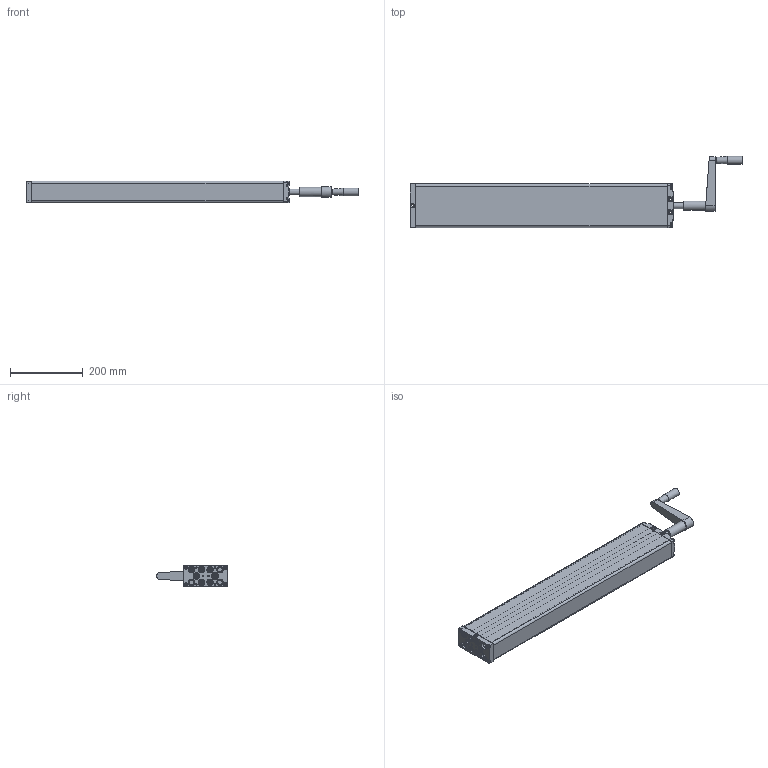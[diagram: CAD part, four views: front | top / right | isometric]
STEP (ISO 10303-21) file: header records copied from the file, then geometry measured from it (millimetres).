
FILE_DESCRIPTION(/* description */ ('Unknown'),/* implementation_level */ '2;1');
FILE_NAME(/* name */ '312.20265 Pumpe PB 7850 W mit Handkurbel',/* time_stamp */ '2016-11-25T10:59:14+01:00',/* author */ ('Unknown'),/* organization */ ('Unknown'),/* preprocessor_version */ 'ST-DEVELOPER v16.7',/* originating_system */ 'DEX',/* authorisation */ $);
FILE_SCHEMA (('AUTOMOTIVE_DESIGN {1 0 10303 214 3 1 1}'));
Products named in the file (23): 102.20265; 115.10035; 125.00061; 115.00008; 142.00021; 125.00021; 113.00005; 128.00001; 125.00052; 126.00013; 125.00053; 127.00014; Handgriff; 142.00013; 125.00145; 115.00140; 126.00006; 122.00040; 119.00045; 126.00036; 142.00057; 142.00083; 142.00017
Assembly tree (39 placements, depth 3):
  102.20265
    115.10035  x7
      125.00061
      115.00008
      142.00021
      125.00021
    113.00005
      128.00001
      125.00052
      126.00013
      125.00053
      127.00014
      Handgriff
    142.00013  x8
    125.00145
    115.00140
      126.00006
      122.00040
    119.00045
    126.00036
    142.00057
    142.00083  x4
    142.00017  x2
Bounding box: 912.75 x 195.5 x 60.3 mm (x, y, z)
Volume: 1035575.5 mm3; surface area: 663735.8 mm2
Topology: 47 solids, 47 shells, 2184 faces, 4963 edges, 2903 vertices
Faces by surface type: plane 791, cylinder 497, bspline 380, cone 351, torus 108, sphere 57
Full cylindrical faces by diameter (mm): 3.5 x7, 4 x2, 4.1 x7, 4.134 x4, 4.2 x8, 4.917 x4, 5 x12, 5.8 x4, 6 x2, 6.8 x1, 6.917 x14, 8 x16, 8.5 x4, 9.8 x8, 10 x6, 10.4 x1, 10.5 x4, 12.5 x7, 12.8 x1, 13 x25, 14 x1, 14.4 x7, 16 x2, 17 x1, 17.9 x14, 18 x11, 19 x1, 20.6 x1, 21 x1, 22 x1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
Entity records: 64061 total; most frequent: CARTESIAN_POINT 30506, ORIENTED_EDGE 5368, DIRECTION 4817, EDGE_CURVE 2684, AXIS2_PLACEMENT_3D 1875, VERTEX_POINT 1709, FACE_BOUND 1541, EDGE_LOOP 1538
